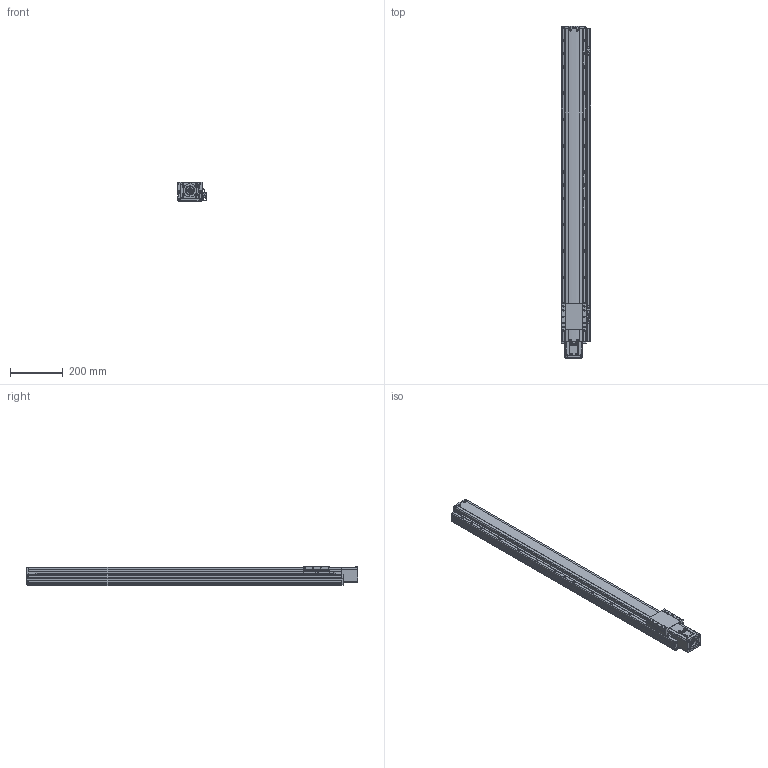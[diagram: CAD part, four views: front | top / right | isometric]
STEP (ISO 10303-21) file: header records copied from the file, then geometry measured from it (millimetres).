
FILE_DESCRIPTION(('STEP AP214'),'1');
FILE_NAME('Z:/Web/3D/PSA95/STP/PSA95-1000 (3D)/PSA95ㅁㅁ-1000S+3SR.stp','2014-07-03T01:04:05',(' '),(' '),'Spatial InterOp 3D',' ',' ');
FILE_SCHEMA(('automotive_design'));
Length unit declared in the file: millimetre
Products named in the file (53): BASE; RRCV; 스크루 : Round - M4.0 x 10.0; 너트 : Square - M10.0 x 220.7419; RR1500; FRCV-090; 스크루 : Round - M4.0 x 6.0; SLBL-PA90; SSFX-SAN65; CPLCV-SAN65; 스크루 : Round - M3.0 x 6.0; MTHZ-PA70/90-S60A-3; 스크루 : Socket - M4.0 x 20.0; NONE; EE-SX674; SBK-SX674-352; M3.0 x 6.0; SRL-16x17-380L; SGD-PA95; 스크루 : Round - M3.0 x 8.0
Bounding box: 111 x 1262.5 x 74 mm (x, y, z)
Volume: 6732164.8 mm3; surface area: 817441.5 mm2
Topology: 53 solids, 87 shells, 3652 faces, 9400 edges, 5956 vertices
Faces by surface type: plane 1823, cylinder 1142, cone 431, torus 158, sphere 66, bspline 32
Entity records: 144086 total; most frequent: CARTESIAN_POINT 23326, DIRECTION 19648, ORIENTED_EDGE 18464, EDGE_CURVE 9232, AXIS2_PLACEMENT_3D 7000, VERTEX_POINT 5956, LINE 5648, VECTOR 5648
